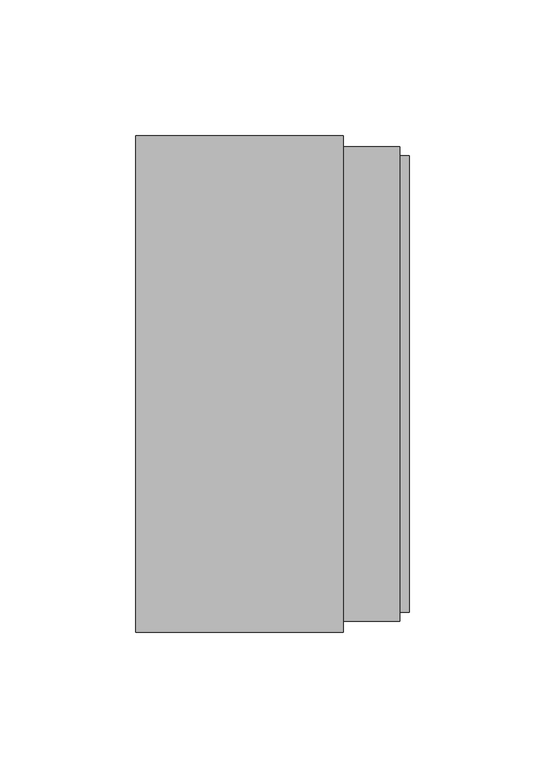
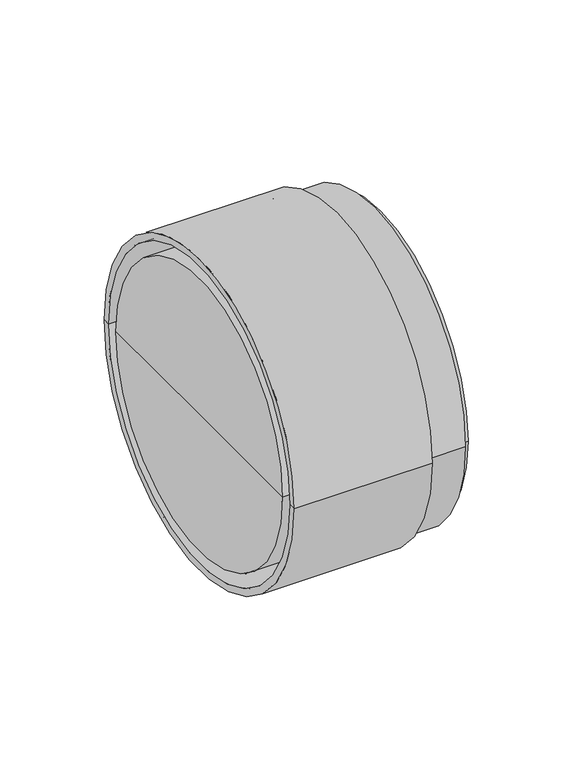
"""IFC4 building model written with IfcOpenShell, lengths in millimetres: pipe fitting geometry, pf_KGUSM : pf_KGUSM."""

from ifc_helpers import new_model, si_unit, frame, origin, place, context, project, spatial, polyline, circle_curve, source, transform, mapped, element, save
from ifc_brep_helpers import plane_surface, cylinder_surface, revolved_surface, advanced_brep


def pipe_fitting_09943354(model_context):
    return source(origin(), model_context, "Body", "AdvancedBrep", [
        advanced_brep(
        [(-1.75, 0.0, 0.0), (-1.75, 80.0, 0.0), (-1.75, -80.0, 0.0), (98.95, -84.0, 0.0), (98.95, 84.0, 0.0), (98.95, 80.0, 0.0), (98.95, -80.0, 0.0), (95.55, -84.0, 0.0), (95.55, 84.0, 0.0), (95.55, -87.4, 0.0), (95.55, 87.4, 0.0), (74.75, -87.4, 0.0), (74.75, 87.4, 0.0), (65.15, -80.0, 0.0), (65.15, 80.0, 0.0), (65.15, 0.0, 0.0), (74.75, -91.4, 0.0), (74.75, 91.4, 0.0), (-1.75, -91.4, 0.0), (-1.75, 91.4, 0.0), (-1.75, -87.4, 0.0), (-1.75, 87.4, 0.0), (68.0131579, -87.4, 0.0), (68.0131579, 87.4, 0.0), (68.0131579, -84.0, 0.0), (68.0131579, 84.0, 0.0), (65.15, -84.0, 0.0), (65.15, 84.0, 0.0), (56.65, -80.0, 0.0), (56.65, 80.0, 0.0)],
        [
            (0, 1),
            (1, 2, circle_curve(frame((-1.75, 0.0, 0.0), z_axis=(-1.0, 0.0, 0.0), x_axis=(0.0, 1.0, 0.0)), 80.0)),
            (2, 0),
            (2, 1, circle_curve(frame((-1.75, 0.0, 0.0), z_axis=(-1.0, 0.0, 0.0), x_axis=(0.0, 1.0, 0.0)), 80.0)),
            (3, 4, circle_curve(frame((98.95, 0.0, 0.0), z_axis=(1.0, 0.0, 0.0), x_axis=(0.0, 1.0, 0.0)), 84.0)),
            (4, 5),
            (5, 6, circle_curve(frame((98.95, 0.0, 0.0), z_axis=(-1.0, 0.0, 0.0), x_axis=(0.0, 1.0, 0.0)), 80.0)),
            (6, 3),
            (4, 3, circle_curve(frame((98.95, 0.0, 0.0), z_axis=(1.0, 0.0, 0.0), x_axis=(0.0, 1.0, 0.0)), 84.0)),
            (6, 5, circle_curve(frame((98.95, 0.0, 0.0), z_axis=(-1.0, 0.0, 0.0), x_axis=(0.0, 1.0, 0.0)), 80.0)),
            (7, 8, circle_curve(frame((95.55, 0.0, 0.0), z_axis=(1.0, 0.0, 0.0), x_axis=(0.0, 1.0, 0.0)), 84.0)),
            (8, 4),
            (3, 7),
            (8, 7, circle_curve(frame((95.55, 0.0, 0.0), z_axis=(1.0, 0.0, 0.0), x_axis=(0.0, 1.0, 0.0)), 84.0)),
            (9, 10, circle_curve(frame((95.55, 0.0, 0.0), z_axis=(1.0, 0.0, 0.0), x_axis=(0.0, 1.0, 0.0)), 87.4)),
            (10, 8),
            (7, 9),
            (10, 9, circle_curve(frame((95.55, 0.0, 0.0), z_axis=(1.0, 0.0, 0.0), x_axis=(0.0, 1.0, 0.0)), 87.4)),
            (11, 12, circle_curve(frame((74.75, 0.0, 0.0), z_axis=(1.0, 0.0, 0.0), x_axis=(0.0, 1.0, 0.0)), 87.4)),
            (12, 10),
            (9, 11),
            (12, 11, circle_curve(frame((74.75, 0.0, 0.0), z_axis=(1.0, 0.0, 0.0), x_axis=(0.0, 1.0, 0.0)), 87.4)),
            (13, 14, circle_curve(frame((65.15, 0.0, 0.0), z_axis=(1.0, 0.0, 0.0), x_axis=(0.0, 1.0, 0.0)), 80.0)),
            (14, 15),
            (15, 13),
            (14, 13, circle_curve(frame((65.15, 0.0, 0.0), z_axis=(1.0, 0.0, 0.0), x_axis=(0.0, 1.0, 0.0)), 80.0)),
            (5, 14),
            (13, 6),
            (16, 17, circle_curve(frame((74.75, 0.0, 0.0), z_axis=(1.0, 0.0, 0.0), x_axis=(0.0, 1.0, 0.0)), 91.4)),
            (17, 12),
            (11, 16),
            (17, 16, circle_curve(frame((74.75, 0.0, 0.0), z_axis=(1.0, 0.0, 0.0), x_axis=(0.0, 1.0, 0.0)), 91.4)),
            (18, 19, circle_curve(frame((-1.75, 0.0, 0.0), z_axis=(1.0, 0.0, 0.0), x_axis=(0.0, 1.0, 0.0)), 91.4)),
            (19, 17),
            (16, 18),
            (19, 18, circle_curve(frame((-1.75, 0.0, 0.0), z_axis=(1.0, 0.0, 0.0), x_axis=(0.0, 1.0, 0.0)), 91.4)),
            (20, 21, circle_curve(frame((-1.75, 0.0, 0.0), z_axis=(1.0, 0.0, 0.0), x_axis=(0.0, 1.0, 0.0)), 87.4)),
            (21, 19),
            (18, 20),
            (21, 20, circle_curve(frame((-1.75, 0.0, 0.0), z_axis=(1.0, 0.0, 0.0), x_axis=(0.0, 1.0, 0.0)), 87.4)),
            (22, 23, circle_curve(frame((68.0131579, 0.0, 0.0), z_axis=(1.0, 0.0, 0.0), x_axis=(0.0, 1.0, 0.0)), 87.4)),
            (23, 21),
            (20, 22),
            (23, 22, circle_curve(frame((68.0131579, 0.0, 0.0), z_axis=(1.0, 0.0, 0.0), x_axis=(0.0, 1.0, 0.0)), 87.4)),
            (24, 25, circle_curve(frame((68.0131579, 0.0, 0.0), z_axis=(1.0, 0.0, 0.0), x_axis=(0.0, 1.0, 0.0)), 84.0)),
            (25, 23),
            (22, 24),
            (25, 24, circle_curve(frame((68.0131579, 0.0, 0.0), z_axis=(1.0, 0.0, 0.0), x_axis=(0.0, 1.0, 0.0)), 84.0)),
            (26, 27, circle_curve(frame((65.15, 0.0, 0.0), z_axis=(1.0, 0.0, 0.0), x_axis=(0.0, 1.0, 0.0)), 84.0)),
            (27, 25),
            (24, 26),
            (27, 26, circle_curve(frame((65.15, 0.0, 0.0), z_axis=(1.0, 0.0, 0.0), x_axis=(0.0, 1.0, 0.0)), 84.0)),
            (28, 29, circle_curve(frame((56.65, 0.0, 0.0), z_axis=(1.0, 0.0, 0.0), x_axis=(0.0, 1.0, 0.0)), 80.0)),
            (29, 27),
            (26, 28),
            (29, 28, circle_curve(frame((56.65, 0.0, 0.0), z_axis=(1.0, 0.0, 0.0), x_axis=(0.0, 1.0, 0.0)), 80.0)),
            (1, 29),
            (28, 2),
        ],
        [
            plane_surface(frame((-1.75, 0.0, 0.0), z_axis=(-1.0, 0.0, 0.0), x_axis=(0.0, 1.0, 0.0))),
            plane_surface(frame((98.95, 0.0, 0.0), z_axis=(1.0, 0.0, 0.0), x_axis=(0.0, 1.0, 0.0))),
            cylinder_surface(frame((-1.75, 0.0, 0.0), z_axis=(-1.0, 0.0, 0.0), x_axis=(0.0, 1.0, 0.0)), 84.0),
            plane_surface(frame((95.55, 0.0, 0.0), z_axis=(1.0, 0.0, 0.0), x_axis=(0.0, 1.0, 0.0))),
            cylinder_surface(frame((-1.75, 0.0, 0.0), z_axis=(-1.0, 0.0, 0.0), x_axis=(0.0, 1.0, 0.0)), 87.4),
            plane_surface(frame((65.15, 0.0, 0.0), z_axis=(1.0, 0.0, 0.0), x_axis=(0.0, 1.0, 0.0))),
            revolved_surface(polyline([(65.15, 80.0, 0.0), (98.95, 80.0, 0.0)]), (-1.75, 0.0, 0.0), (-1.0, 0.0, 0.0)),
            plane_surface(frame((74.75, 0.0, 0.0), z_axis=(1.0, 0.0, 0.0), x_axis=(0.0, 1.0, 0.0))),
            cylinder_surface(frame((-1.75, 0.0, 0.0), z_axis=(-1.0, 0.0, 0.0), x_axis=(0.0, 1.0, 0.0)), 91.4),
            revolved_surface(polyline([(-1.75, 87.4, 0.0), (68.0131579, 87.4, 0.0)]), (-1.75, 0.0, 0.0), (-1.0, 0.0, 0.0)),
            plane_surface(frame((68.0131579, 0.0, 0.0), z_axis=(-1.0, 0.0, 0.0), x_axis=(0.0, 1.0, 0.0))),
            revolved_surface(polyline([(65.15, 84.0, 0.0), (56.65, 80.0, 0.0)]), (-1.75, 0.0, 0.0), (-1.0, 0.0, 0.0)),
            cylinder_surface(frame((-1.75, 0.0, 0.0), z_axis=(-1.0, 0.0, 0.0), x_axis=(0.0, 1.0, 0.0)), 80.0),
        ],
        [
            (0, [[1, 2, 3]]),
            (0, [[-3, 4, -1]]),
            (1, [[5, 6, 7, 8]]),
            (1, [[9, -8, 10, -6]]),
            (2, [[11, 12, -5, 13]]),
            (2, [[14, -13, -9, -12]]),
            (3, [[15, 16, -11, 17]]),
            (3, [[18, -17, -14, -16]]),
            (4, [[19, 20, -15, 21]]),
            (4, [[22, -21, -18, -20]]),
            (5, [[23, 24, 25]]),
            (5, [[26, -25, -24]]),
            (6, [[-7, 27, -23, 28]]),
            (6, [[-10, -28, -26, -27]]),
            (7, [[29, 30, -19, 31]]),
            (7, [[32, -31, -22, -30]]),
            (8, [[33, 34, -29, 35]]),
            (8, [[36, -35, -32, -34]]),
            (0, [[37, 38, -33, 39]]),
            (0, [[40, -39, -36, -38]]),
            (9, [[41, 42, -37, 43]]),
            (9, [[44, -43, -40, -42]]),
            (10, [[45, 46, -41, 47]]),
            (10, [[48, -47, -44, -46]]),
            (2, [[49, 50, -45, 51]]),
            (2, [[52, -51, -48, -50]]),
            (11, [[53, 54, -49, 55]]),
            (11, [[56, -55, -52, -54]]),
            (12, [[-2, 57, -53, 58]]),
            (12, [[-4, -58, -56, -57]]),
        ],
    ),
    ])


if __name__ == "__main__":
    model = new_model("IFC4")
    model_context = context("Model", 3, world=origin())
    ifc_project = project(units=[si_unit("LENGTHUNIT", "METRE", prefix="MILLI")], contexts=[model_context])
    site = spatial("IfcSite", under=ifc_project)
    building = spatial("IfcBuilding", under=site)
    placement = place(None, origin())
    pipe_fitting_shape = pipe_fitting_09943354(model_context)
    element("IfcPipeFitting", 1, ObjectType="pf_KGUSM : pf_KGUSM", at=placement, inside=building, context=model_context, shape_type="MappedRepresentation", body=[
        mapped(pipe_fitting_shape, transform((0.0, 0.0, 0.0), x_axis=(1.0, 0.0, 0.0), y_axis=(0.0, 1.0, 0.0), z_axis=(0.0, 0.0, 1.0))),
    ])
    save(model, "model.ifc")
